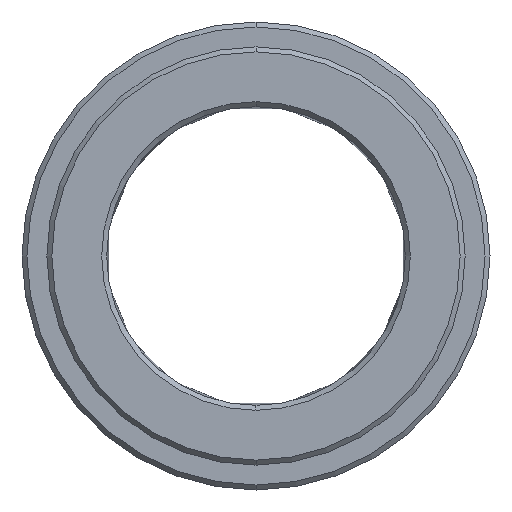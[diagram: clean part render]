
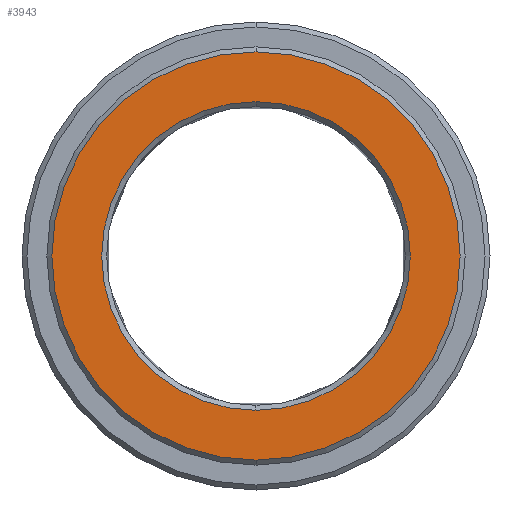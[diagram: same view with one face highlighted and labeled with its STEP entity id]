
A CAD part, left-side view. The second image highlights one B-rep face of the part: STEP entity #3943.
In plain terms, the highlighted planar face has unit normal (-1, 0, 0).
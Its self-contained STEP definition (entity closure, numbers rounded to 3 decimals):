
#2498=CARTESIAN_POINT('',(-8.,0.,
0.));
#2499=DIRECTION('',(1.,0.,0.));
#2500=DIRECTION('',(0.,0.,1.));
#2501=AXIS2_PLACEMENT_3D('',#2498,#2499,#2500);
#2503=CARTESIAN_POINT('',(-8.,0.,
0.));
#2504=DIRECTION('',(1.,0.,0.));
#2505=DIRECTION('',(0.,0.,-1.));
#2506=AXIS2_PLACEMENT_3D('',#2503,#2504,#2505);
#2508=CARTESIAN_POINT('',(-8.,0.,
0.));
#2509=DIRECTION('',(1.,0.,0.));
#2510=DIRECTION('',(0.,0.,1.));
#2511=AXIS2_PLACEMENT_3D('',#2508,#2509,#2510);
#2513=CARTESIAN_POINT('',(-8.,0.,0.));
#2514=DIRECTION('',(1.,0.,0.));
#2515=DIRECTION('',(0.,0.,-1.));
#2516=AXIS2_PLACEMENT_3D('',#2513,#2514,#2515);
#2706=CARTESIAN_POINT('',(-8.,0.,15.5));
#2707=CARTESIAN_POINT('',(-8.,0.,
-15.5));
#2708=VERTEX_POINT('',#2706);
#2709=VERTEX_POINT('',#2707);
#2714=CARTESIAN_POINT('',(-8.,0.,20.5));
#2715=CARTESIAN_POINT('',(-8.,0.,
-20.5));
#2716=VERTEX_POINT('',#2714);
#2717=VERTEX_POINT('',#2715);
#3928=CARTESIAN_POINT('',(-8.,0.,0.));
#3929=DIRECTION('',(1.,0.,0.));
#3930=DIRECTION('',(0.,0.,1.));
#3931=AXIS2_PLACEMENT_3D('',#3928,#3929,#3930);
#3932=PLANE('',#3931);
#3933=ORIENTED_EDGE('',*,*,#3895,.T.);
#3934=ORIENTED_EDGE('',*,*,#3910,.T.);
#3935=EDGE_LOOP('',(#3933,#3934));
#3936=FACE_OUTER_BOUND('',#3935,.F.);
#3938=ORIENTED_EDGE('',*,*,#3937,.F.);
#3940=ORIENTED_EDGE('',*,*,#3939,.F.);
#3941=EDGE_LOOP('',(#3938,#3940));
#3942=FACE_BOUND('',#3941,.F.);
#3943=ADVANCED_FACE('',(#3936,#3942),#3932,.F.);
#2502=CIRCLE('',#2501,20.5);
#2507=CIRCLE('',#2506,20.5);
#2512=CIRCLE('',#2511,15.5);
#2517=CIRCLE('',#2516,15.5);
#3895=EDGE_CURVE('',#2716,#2717,#2502,.T.);
#3910=EDGE_CURVE('',#2717,#2716,#2507,.T.);
#3937=EDGE_CURVE('',#2708,#2709,#2512,.T.);
#3939=EDGE_CURVE('',#2709,#2708,#2517,.T.);
